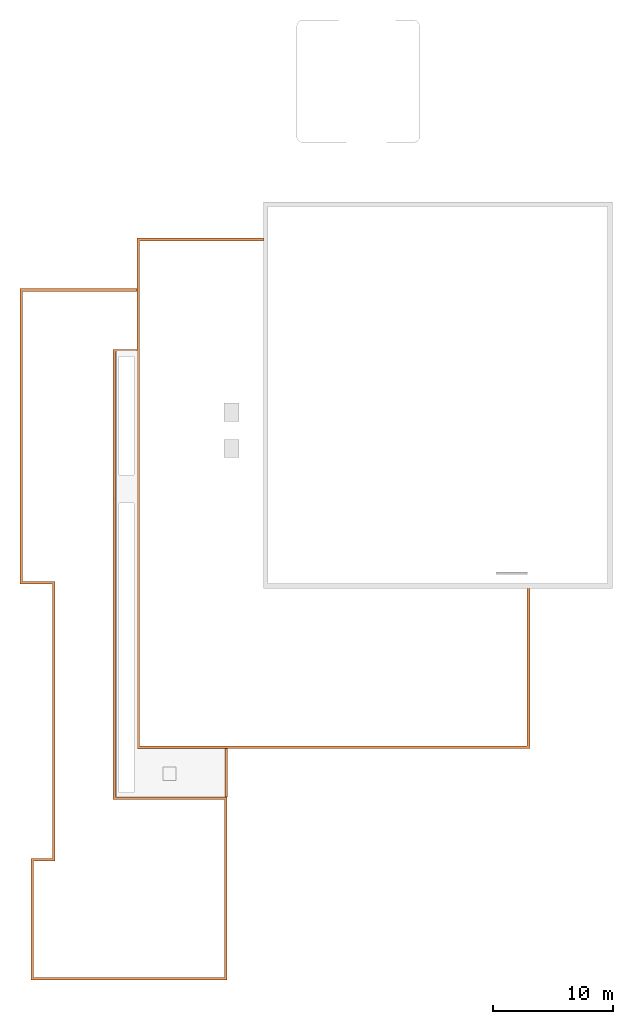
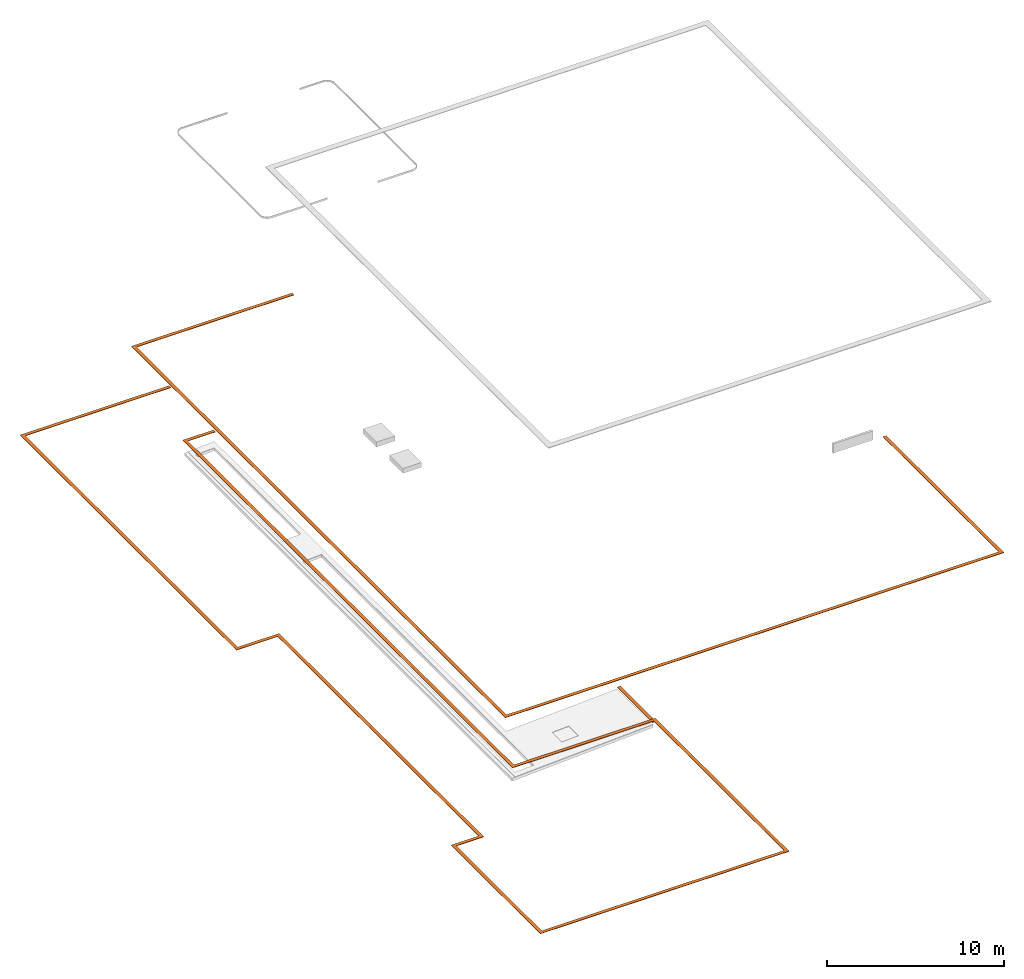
# One storey, part 2 of 2: 1 proxy.
"""IFC2X3 building model written with IfcOpenShell, lengths in metres."""

from ifc_helpers import new_model, entity, si_unit, converted_unit, derived_unit, direction, frame, origin, place, context, subcontext, project, spatial, faceted_brep, source, transform, mapped, type_object, type_shapes, element, save


model = new_model("IFC2X3")

# Units and contexts
model_context = context("Model", 3, precision=1e-05, world=origin(), true_north=direction((6.12303176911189e-17, 1.0)))
body_context = subcontext(model_context, "Body", "Model", "MODEL_VIEW")
ifc_project = project(units=[si_unit("LENGTHUNIT", "METRE"), si_unit("AREAUNIT", "SQUARE_METRE"), si_unit("VOLUMEUNIT", "CUBIC_METRE"), converted_unit("PLANEANGLEUNIT", "DEGREE", entity("IfcRatioMeasure", 0.0174532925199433), si_unit("PLANEANGLEUNIT", "RADIAN"), dimensions=[0, 0, 0, 0, 0, 0, 0]), si_unit("MASSUNIT", "GRAM", prefix="KILO"), derived_unit("MASSDENSITYUNIT", [(si_unit("MASSUNIT", "GRAM", prefix="KILO"), 1), (si_unit("LENGTHUNIT", "METRE"), -3)]), derived_unit("MOMENTOFINERTIAUNIT", [(si_unit("LENGTHUNIT", "METRE"), 4)]), si_unit("TIMEUNIT", "SECOND"), si_unit("FREQUENCYUNIT", "HERTZ"), si_unit("THERMODYNAMICTEMPERATUREUNIT", "DEGREE_CELSIUS"), derived_unit("THERMALTRANSMITTANCEUNIT", [(si_unit("MASSUNIT", "GRAM", prefix="KILO"), 1), (si_unit("THERMODYNAMICTEMPERATUREUNIT", "KELVIN"), -1), (si_unit("TIMEUNIT", "SECOND"), -3)]), derived_unit("VOLUMETRICFLOWRATEUNIT", [(si_unit("LENGTHUNIT", "METRE"), 3), (si_unit("TIMEUNIT", "SECOND"), -1)]), si_unit("ELECTRICCURRENTUNIT", "AMPERE"), si_unit("ELECTRICVOLTAGEUNIT", "VOLT"), si_unit("POWERUNIT", "WATT"), si_unit("FORCEUNIT", "NEWTON", prefix="KILO"), si_unit("ILLUMINANCEUNIT", "LUX"), si_unit("LUMINOUSFLUXUNIT", "LUMEN"), si_unit("LUMINOUSINTENSITYUNIT", "CANDELA"), derived_unit("USERDEFINED", [(si_unit("MASSUNIT", "GRAM", prefix="KILO"), -1), (si_unit("LENGTHUNIT", "METRE"), -2), (si_unit("TIMEUNIT", "SECOND"), 3), (si_unit("LUMINOUSFLUXUNIT", "LUMEN"), 1)]), derived_unit("LINEARVELOCITYUNIT", [(si_unit("LENGTHUNIT", "METRE"), 1), (si_unit("TIMEUNIT", "SECOND"), -1)]), si_unit("PRESSUREUNIT", "PASCAL"), derived_unit("USERDEFINED", [(si_unit("LENGTHUNIT", "METRE"), -2), (si_unit("MASSUNIT", "GRAM", prefix="KILO"), 1), (si_unit("TIMEUNIT", "SECOND"), -2)]), derived_unit("LINEARFORCEUNIT", [(si_unit("MASSUNIT", "GRAM", prefix="KILO"), 1), (si_unit("LENGTHUNIT", "METRE"), 1), (si_unit("TIMEUNIT", "SECOND"), -2), (si_unit("LENGTHUNIT", "METRE"), -1)]), derived_unit("PLANARFORCEUNIT", [(si_unit("MASSUNIT", "GRAM", prefix="KILO"), 1), (si_unit("LENGTHUNIT", "METRE"), 1), (si_unit("TIMEUNIT", "SECOND"), -2), (si_unit("LENGTHUNIT", "METRE"), -2)])], contexts=[model_context])

# Site, building, storey
site_placement = place(None, origin())
site = spatial("IfcSite", under=ifc_project, at=site_placement, Name="Default", CompositionType="ELEMENT")
building_placement = place(site_placement, origin())
building = spatial("IfcBuilding", under=site, at=building_placement, CompositionType="ELEMENT")
storey_placement = place(building_placement, frame((0.0, 0.0, 3.22980827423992)))
storey = spatial("IfcBuildingStorey", under=building, at=storey_placement, Name="Niveau 1 - 03", CompositionType="ELEMENT", Elevation=3.22980827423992)

# Proxy
building_element_proxy_type = type_object("IfcBuildingElementProxyType", Name="Accrotère R+1:Accrotère R+1", PredefinedType="NOTDEFINED")
shared_shape = source(origin(), body_context, "Body", "Brep", [
    faceted_brep([(17.2261407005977, 15.1720980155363, 0.0199999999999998), (17.2261407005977, 15.1720980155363, 0.0), (17.2361407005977, 15.1720980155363, 0.0), (17.2361407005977, 15.1720980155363, 0.0299999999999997), (17.019279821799, 15.1720980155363, 0.0299999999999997), (17.019279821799, 15.1720980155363, 0.0), (17.0261407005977, 15.1720980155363, 0.0), (17.0261407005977, 15.1720980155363, 0.0199999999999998), (17.2261407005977, 19.2220980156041, 0.0199999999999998), (17.0261407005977, 19.2220980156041, 0.0199999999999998), (17.0261407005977, 19.2220980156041, 0.0), (17.019279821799, 19.2220980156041, 0.0), (17.019279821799, 19.2220980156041, 0.0299999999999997), (17.2361407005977, 19.2220980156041, 0.0299999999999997), (17.2361407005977, 19.2220980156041, 0.0), (17.2261407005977, 19.2220980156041, 0.0)], [[[0, 1, 2, 3, 4, 5, 6, 7]], [[8, 9, 10, 11, 12, 13, 14, 15]], [[1, 0, 8, 15]], [[2, 1, 15, 14]], [[3, 2, 14, 13]], [[4, 3, 13, 12]], [[5, 4, 12, 11]], [[6, 5, 11, 10]], [[7, 6, 10, 9]], [[0, 7, 9, 8]]]),
    faceted_brep([(20.2052483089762, 61.5538312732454, 0.472007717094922), (20.2052483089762, 61.5538312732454, 0.452007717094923), (20.2052483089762, 61.5638312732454, 0.452007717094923), (20.2052483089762, 61.5638312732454, 0.482007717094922), (20.2052483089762, 61.3469703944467, 0.482007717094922), (20.2052483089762, 61.3469703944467, 0.452007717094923), (20.2052483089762, 61.3538312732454, 0.452007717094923), (20.2052483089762, 61.3538312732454, 0.472007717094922), (42.3032891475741, 32.5248992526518, 0.472007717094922), (42.1032891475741, 32.5248992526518, 0.472007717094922), (42.1032891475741, 32.5248992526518, 0.452007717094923), (42.0964282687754, 32.5248992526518, 0.452007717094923), (42.0964282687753, 32.5248992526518, 0.482007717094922), (42.3132891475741, 32.5248992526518, 0.482007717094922), (42.3132891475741, 32.5248992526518, 0.452007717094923), (42.3032891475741, 32.5248992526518, 0.452007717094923), (9.70524830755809, 61.5538312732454, 0.472007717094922), (9.7052483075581, 61.5538312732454, 0.452007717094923), (9.70524830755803, 19.222098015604, 0.452007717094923), (42.3032891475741, 19.2220980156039, 0.452007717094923), (42.3132891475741, 19.2120980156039, 0.452007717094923), (9.69524830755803, 19.212098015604, 0.452007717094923), (9.6952483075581, 61.5638312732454, 0.452007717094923), (9.6952483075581, 61.5638312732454, 0.482007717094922), (9.69524830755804, 19.212098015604, 0.482007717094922), (42.3132891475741, 19.2120980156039, 0.482007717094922), (42.0964282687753, 19.4289588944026, 0.482007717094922), (9.91210918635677, 19.4289588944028, 0.482007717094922), (9.91210918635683, 61.3469703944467, 0.482007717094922), (9.91210918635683, 61.3469703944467, 0.452007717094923), (9.91210918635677, 19.4289588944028, 0.452007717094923), (42.0964282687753, 19.4289588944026, 0.452007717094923), (42.1032891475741, 19.4220980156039, 0.452007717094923), (9.90524830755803, 19.422098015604, 0.452007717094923), (9.9052483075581, 61.3538312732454, 0.452007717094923), (9.90524830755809, 61.3538312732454, 0.472007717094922), (9.90524830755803, 19.422098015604, 0.472007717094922), (42.1032891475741, 19.4220980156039, 0.472007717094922), (42.3032891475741, 19.2220980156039, 0.472007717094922), (9.70524830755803, 19.222098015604, 0.472007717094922)], [[[0, 1, 2, 3, 4, 5, 6, 7]], [[8, 9, 10, 11, 12, 13, 14, 15]], [[1, 0, 16, 17]], [[2, 1, 17, 18, 19, 15, 14, 20, 21, 22]], [[3, 2, 22, 23]], [[4, 3, 23, 24, 25, 13, 12, 26, 27, 28]], [[5, 4, 28, 29]], [[6, 5, 29, 30, 31, 11, 10, 32, 33, 34]], [[7, 6, 34, 35]], [[0, 7, 35, 36, 37, 9, 8, 38, 39, 16]], [[17, 16, 39, 18]], [[23, 22, 21, 24]], [[29, 28, 27, 30]], [[35, 34, 33, 36]], [[18, 39, 38, 19]], [[24, 21, 20, 25]], [[30, 27, 26, 31]], [[36, 33, 32, 37]], [[19, 38, 8, 15]], [[25, 20, 14, 13]], [[31, 26, 12, 11]], [[37, 32, 10, 9]]]),
    faceted_brep([(9.75524830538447, 57.3657968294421, 0.27), (9.75524830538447, 57.3657968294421, 0.25), (9.75524830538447, 57.3757968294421, 0.25), (9.75524830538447, 57.3757968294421, 0.28), (9.75524830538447, 57.1589359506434, 0.28), (9.75524830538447, 57.1589359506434, 0.25), (9.75524830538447, 57.1657968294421, 0.25), (9.75524830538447, 57.1657968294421, 0.27), (0.0100000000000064, 57.3657968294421, 0.27), (0.0100000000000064, 57.3657968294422, 0.25), (0.0, 57.3757968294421, 0.25), (0.0, 57.3757968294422, 0.28), (0.216860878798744, 57.1589359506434, 0.28), (0.216860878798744, 57.1589359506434, 0.25), (0.210000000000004, 57.1657968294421, 0.27), (0.209999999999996, 33.0644549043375, 0.27), (2.90633727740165, 33.0644549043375, 0.27), (2.90633727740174, 9.89401444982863, 0.27), (1.10753695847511, 9.89401444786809, 0.27), (1.10753695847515, 0.210000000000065, 0.27), (16.9661407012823, 0.210000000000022, 0.27), (16.9661407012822, 14.9720980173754, 0.27), (7.93524830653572, 14.9720980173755, 0.27), (7.93524830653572, 15.1720980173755, 0.27), (17.1661407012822, 15.1720980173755, 0.27), (17.1661407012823, 0.00999999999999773, 0.27), (0.907536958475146, 0.010000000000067, 0.27), (0.90753695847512, 10.0940144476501, 0.27), (2.70633727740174, 10.0940144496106, 0.27), (2.70633727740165, 32.8644549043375, 0.27), (0.0100000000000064, 32.8644549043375, 0.27), (0.0100000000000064, 32.8644549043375, 0.25), (0.0, 32.8544549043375, 0.25), (0.0, 32.8544549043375, 0.28), (0.216860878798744, 33.0713157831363, 0.28), (0.216860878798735, 33.0713157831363, 0.25), (2.70633727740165, 32.8644549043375, 0.25), (2.69633727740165, 32.8544549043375, 0.25), (2.69633727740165, 32.8544549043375, 0.28), (2.91319815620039, 33.0713157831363, 0.28), (2.91319815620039, 33.0713157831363, 0.25), (2.70633727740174, 10.0940144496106, 0.25), (2.69633727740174, 10.1040144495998, 0.25), (2.69633727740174, 10.1040144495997, 0.28), (2.91319815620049, 9.88715357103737, 0.28), (2.91319815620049, 9.88715357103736, 0.25), (0.90753695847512, 10.0940144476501, 0.25), (0.897536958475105, 10.1040144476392, 0.25), (0.897536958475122, 10.1040144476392, 0.28), (1.11439783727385, 9.88715356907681, 0.28), (1.11439783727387, 9.88715356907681, 0.25), (0.907536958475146, 0.0100000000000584, 0.25), (0.897536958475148, 0.0, 0.25), (0.897536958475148, 0.0, 0.28), (1.11439783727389, 0.216860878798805, 0.28), (1.11439783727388, 0.216860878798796, 0.25), (17.1661407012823, 0.00999999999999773, 0.25), (17.1761407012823, 0.0, 0.25), (17.1761407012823, 0.0, 0.28), (16.9592798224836, 0.216860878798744, 0.28), (16.9592798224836, 0.216860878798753, 0.25), (7.80524830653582, 15.1820980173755, 0.25), (7.80524830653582, 15.1720980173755, 0.25), (7.80524830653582, 15.1720980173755, 0.27), (7.80524830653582, 15.1820980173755, 0.27), (17.1661407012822, 15.1720980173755, 0.25), (17.1761407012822, 15.1820980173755, 0.25), (17.1761407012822, 15.1820980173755, 0.28), (16.9592798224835, 14.9652371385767, 0.28), (16.9592798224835, 14.9652371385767, 0.25), (0.210000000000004, 57.1657968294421, 0.25), (0.210000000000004, 33.0644549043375, 0.25), (2.90633727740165, 33.0644549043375, 0.25), (2.90633727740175, 9.89401444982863, 0.25), (1.10753695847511, 9.89401444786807, 0.25), (1.10753695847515, 0.210000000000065, 0.25), (16.9661407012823, 0.210000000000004, 0.25), (16.9661407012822, 14.9720980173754, 0.25), (7.93524830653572, 15.1720980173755, 0.25), (7.93524830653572, 15.1820980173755, 0.25), (7.93524830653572, 15.1820980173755, 0.28), (7.80524830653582, 14.9652371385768, 0.28), (7.80524830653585, 14.9652371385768, 0.25), (7.93524830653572, 14.9720980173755, 0.25), (7.71838742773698, 14.9720980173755, 0.28), (7.71838742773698, 14.9720980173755, 0.25), (7.72524830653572, 14.9720980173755, 0.25), (7.72524830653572, 14.9720980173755, 0.27), (7.80524830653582, 14.9720980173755, 0.27), (7.80524830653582, 14.9720980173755, 0.28), (9.75524830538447, 52.1201523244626, 0.27), (9.75524830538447, 52.3201523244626, 0.27), (9.75524830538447, 52.3201523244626, 0.25), (9.75524830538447, 52.3270132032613, 0.25), (9.75524830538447, 52.3270132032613, 0.28), (9.75524830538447, 52.1101523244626, 0.28), (9.75524830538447, 52.1101523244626, 0.25), (9.75524830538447, 52.1201523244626, 0.25), (7.92524830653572, 14.9720980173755, 0.27), (7.92524830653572, 15.1720980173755, 0.27), (7.92524830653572, 15.1720980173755, 0.25), (7.92524830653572, 14.9720980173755, 0.25), (7.93524830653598, 52.1101523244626, 0.25), (7.80524830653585, 14.9720980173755, 0.25), (7.92524830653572, 15.1820980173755, 0.25), (7.92524830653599, 52.1201523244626, 0.25), (7.71838742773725, 52.3270132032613, 0.28), (7.93524830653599, 52.1101523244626, 0.28), (7.71838742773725, 52.3270132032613, 0.25), (7.72524830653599, 52.3201523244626, 0.25), (7.72524830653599, 52.3201523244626, 0.27), (7.92524830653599, 52.1201523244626, 0.27), (7.92524830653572, 15.1820980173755, 0.27)], [[[0, 1, 2, 3, 4, 5, 6, 7]], [[1, 0, 8, 9]], [[3, 2, 10, 11]], [[5, 4, 12, 13]], [[0, 7, 14, 15, 16, 17, 18, 19, 20, 21, 22, 23, 24, 25, 26, 27, 28, 29, 30, 8]], [[9, 8, 30, 31]], [[10, 32, 33, 11]], [[12, 34, 35, 13]], [[36, 31, 30, 29]], [[32, 37, 38, 33]], [[34, 39, 40, 35]], [[41, 36, 29, 28]], [[37, 42, 43, 38]], [[39, 44, 45, 40]], [[46, 41, 28, 27]], [[42, 47, 48, 43]], [[44, 49, 50, 45]], [[51, 46, 27, 26]], [[47, 52, 53, 48]], [[49, 54, 55, 50]], [[56, 51, 26, 25]], [[52, 57, 58, 53]], [[54, 59, 60, 55]], [[61, 62, 63, 64]], [[65, 56, 25, 24]], [[57, 66, 67, 58]], [[59, 68, 69, 60]], [[7, 6, 70, 14]], [[15, 14, 70, 71]], [[16, 15, 71, 72]], [[17, 16, 72, 73]], [[18, 17, 73, 74]], [[19, 18, 74, 75]], [[20, 19, 75, 76]], [[21, 20, 76, 77]], [[65, 24, 23, 78]], [[67, 66, 79, 80]], [[68, 81, 82, 69]], [[21, 77, 83, 22]], [[84, 85, 86, 87, 88, 89]], [[90, 91, 92, 93, 94, 95, 96, 97]], [[98, 99, 100, 101]], [[97, 96, 102, 79, 66, 57, 52, 47, 42, 37, 32, 10, 2, 1, 9, 31, 36, 41, 46, 51, 56, 65, 78, 83, 77, 76, 75, 74, 73, 72, 71, 70, 6, 5, 13, 35, 40, 45, 50, 55, 60, 69, 82, 103, 101, 100, 62, 61, 104, 105]], [[83, 78, 23, 22]], [[95, 94, 106, 84, 89, 81, 68, 59, 54, 49, 44, 39, 34, 12, 4, 3, 11, 33, 38, 43, 48, 53, 58, 67, 80, 107]], [[85, 84, 106, 108]], [[86, 85, 108, 93, 92, 109]], [[87, 86, 109, 110]], [[91, 90, 111, 112, 64, 63, 99, 98, 88, 87, 110]], [[90, 97, 105, 111]], [[96, 95, 107, 102]], [[94, 93, 108, 106]], [[92, 91, 110, 109]], [[102, 107, 80, 79]], [[111, 105, 104, 112]], [[103, 88, 98, 101]], [[104, 61, 64, 112]], [[63, 62, 100, 99]], [[88, 103, 82, 81, 89]]]),
])
type_shapes(building_element_proxy_type, [shared_shape])
proxy_placement = place(storey_placement, frame((-46.0492374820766, -53.7311523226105, 0.453499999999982)))
element("IfcBuildingElementProxy", 1, at=proxy_placement, inside=storey, type_object=building_element_proxy_type, Name="Accrotère R+1:Accrotère R+1", ObjectType="Accrotère R+1:Accrotère R+1", context=body_context, shape_type="MappedRepresentation", body=[
    mapped(shared_shape, transform((0.0, 0.0, 0.0), scale=1.0)),
])

save(model, "model.ifc")
